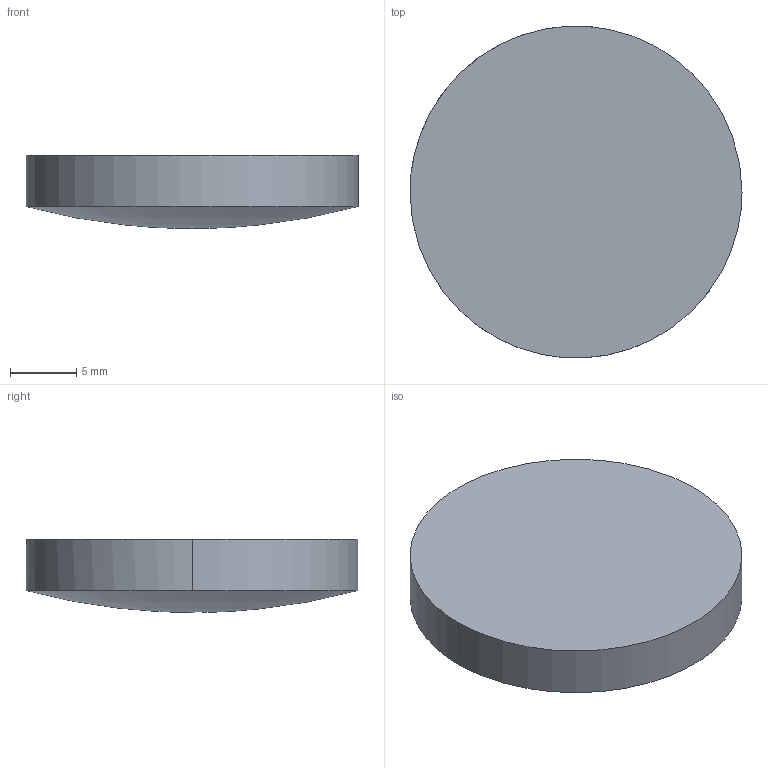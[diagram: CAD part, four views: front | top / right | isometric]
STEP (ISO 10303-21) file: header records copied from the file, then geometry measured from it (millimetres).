
FILE_DESCRIPTION ((), '1');
FILE_NAME ('D:\Applikationen\Optikdesign\StockOptics\Neuentwicklung StockOptics-Designs\AFL Aspheres\AFL25-100 (010714)\ZAS-010714-500-01A Linse AFL25-100_200902_LKI.STP', '2020-09-02T10:01:10', ('Unknown'), ('Unknown'), 'HarmonyWare STEP v2.0.6', 'HarmonyWare Translators', '');
FILE_SCHEMA (('CONFIG_CONTROL_DESIGN'));
Length unit declared in the file: millimetre
Products named in the file (2): NONE
Bounding box: 25 x 24.98 x 5.5 mm (x, y, z)
Volume: 2296.8 mm3; surface area: 1293 mm2
Topology: 1 solids, 1 shells, 4 faces, 18 edges, 24 vertices
Faces by surface type: cylinder 2, bspline 1, plane 1
Entity records: 410 total; most frequent: CARTESIAN_POINT 131, ORIENTED_EDGE 16, PERSON 16, ORGANIZATION 16, PERSON_AND_ORGANIZATION 16, DIRECTION 15, PERSON_AND_ORGANIZATION_ROLE 10, CC_DESIGN_PERSON_AND_ORGANIZATION_ASSIGNMENT 10
